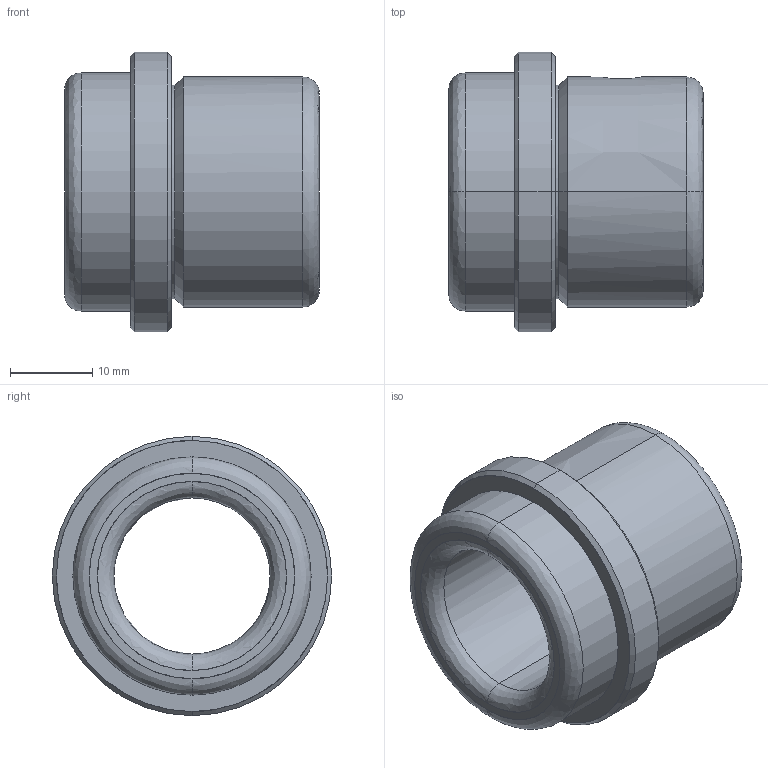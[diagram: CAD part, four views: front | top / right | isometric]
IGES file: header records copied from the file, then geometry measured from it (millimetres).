
Start section: START RECORD GO HERE.
Global section: file name: FAMO-SF1-A19 x 31.igs; native system: DASSAULT SYSTEMES CATIA V5 R20 - www.3ds.com; preprocessor: CATIA Version 5 Release 20 ; author: Utente; organization: NB04-ASUS; date: 20210106.172536; units: millimetre
Bounding box: 31 x 34 x 34 mm (x, y, z)
Surface area: 5892.8 mm2 (no closed solid volume)
Topology: 0 solids, 0 shells, 33 faces, 210 edges, 210 vertices
Faces by surface type: revolution 28, plane 5
